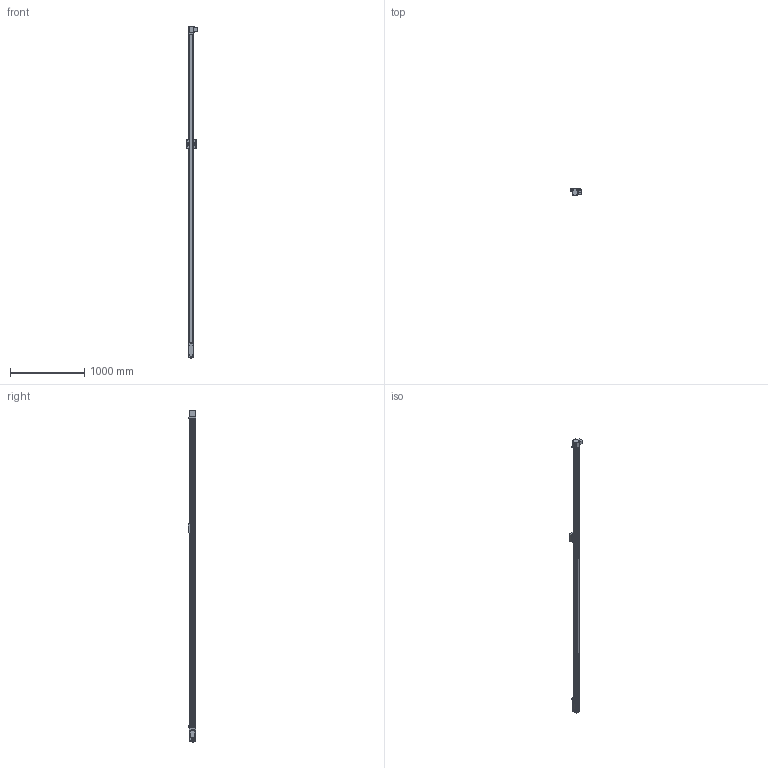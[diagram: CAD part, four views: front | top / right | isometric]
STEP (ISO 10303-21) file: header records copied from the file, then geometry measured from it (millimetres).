
FILE_DESCRIPTION (( 'STEP AP203' ), '1' );
FILE_NAME ('BLSL4080A-4000-LH.STEP', '2025-02-04T08:35:55', ( '' ), ( '' ), 'SwSTEP 2.0', 'SolidWorks 2019', '' );
FILE_SCHEMA (( 'CONFIG_CONTROL_DESIGN' ));
Length unit declared in the file: millimetre
Products named in the file (26): hexagon socket head cap screw_jis_JIS B 1176 M5 x 50 (22) --N; テンション部スライド; cross recessed countersunk head screw_jis_JIS 1111 Cross recessed countersunk head screw - M4 x 40 - Z --40N; テンション部底面プレート; BLSL4080A-4000-LH; hexagon socket head cap screw_jis_JIS B 1176 M6 x 20 (20) --N; ローラーカバー; cross recessed countersunk head screw_jis_JIS 1111 Cross recessed countersunk head screw - M3 x 6 - Z --6N; テンション部スライド固定; プロファイル; 連結プレート; 駆動ケース; モーター取付カップ; テンション部側面; キャリッジプレート; テンション部端面; hexagon socket head cap screw_jis_JIS B 1176 M10 x 65 (32) --N; hexagon socket head cap screw_jis_JIS B 1176 M3 x 8 (8) --N; 駆動軸; シャフト; テンション部上面プレート; カバー; hexagon socket head cap screw_jis_JIS B 1176 M8 x 16 (16) --N; hexagon socket head cap screw_jis_JIS B 1176 M5 x 16 (16) --N; TR12-10; ストッパー
Assembly tree (55 placements, depth 2):
  BLSL4080A-4000-LH
    プロファイル
    テンション部側面  x2
    テンション部端面
    テンション部スライド  x2
    テンション部スライド固定
    テンション部上面プレート
    テンション部底面プレート
    連結プレート  x2
    シャフト  x2
    キャリッジプレート
    TR12-10  x4
    カバー
    hexagon socket head cap screw_jis_JIS B 1176 M10 x 65 (32) --N
    hexagon socket head cap screw_jis_JIS B 1176 M5 x 16 (16) --N  x4
    hexagon socket head cap screw_jis_JIS B 1176 M3 x 8 (8) --N  x4
    cross recessed countersunk head screw_jis_JIS 1111 Cross recessed countersunk head screw - M3 x 6 - Z --6N  x4
    hexagon socket head cap screw_jis_JIS B 1176 M5 x 50 (22) --N  x4
    cross recessed countersunk head screw_jis_JIS 1111 Cross recessed countersunk head screw - M4 x 40 - Z --40N  x4
    hexagon socket head cap screw_jis_JIS B 1176 M8 x 16 (16) --N  x2
    hexagon socket head cap screw_jis_JIS B 1176 M6 x 20 (20) --N  x4
    ストッパー  x2
    駆動ケース
    駆動軸
    モーター取付カップ
    ローラーカバー  x4
Bounding box: 151.95 x 98 x 4475 mm (x, y, z)
Volume: 9553085.8 mm3; surface area: 3255840.4 mm2
Topology: 55 solids, 57 shells, 1780 faces, 4130 edges, 2486 vertices
Faces by surface type: plane 854, cylinder 498, cone 320, torus 108
Entity records: 29016 total; most frequent: CARTESIAN_POINT 4739, DIRECTION 4616, ORIENTED_EDGE 4016, EDGE_CURVE 2008, AXIS2_PLACEMENT_3D 1720, VERTEX_POINT 1264, LINE 1176, VECTOR 1176
